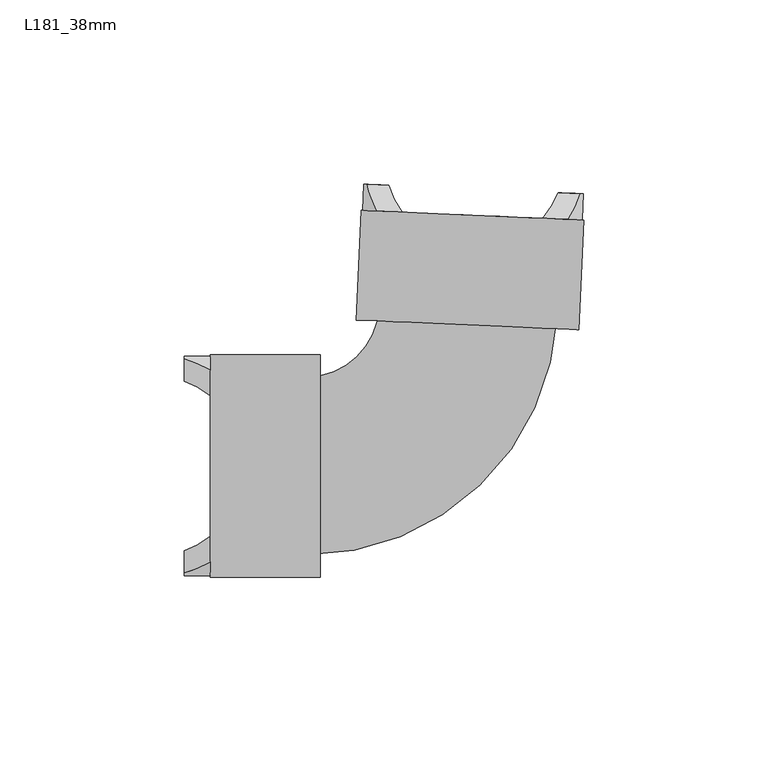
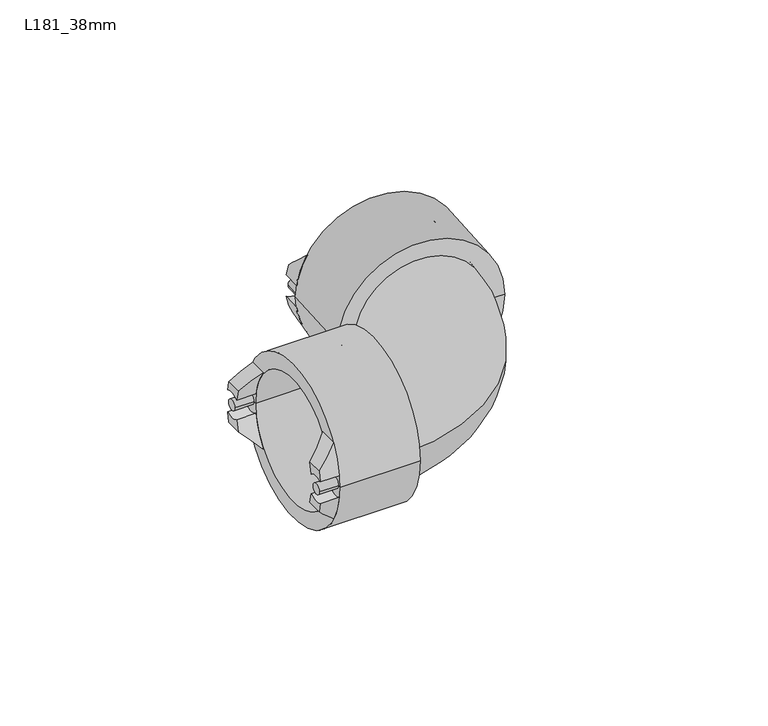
"""IFC4 building model written with IfcOpenShell, lengths in millimetres: pipe fitting geometry, Durapipe_PipeFitting_VulcatheneEnfusion_DoubleSocketShortSweepBend_L18 : L181_38mm."""

import ifcopenshell
import ifcopenshell.guid

model = None  # the IFC model being written
_history = None  # IfcOwnerHistory: only IFC2X3 demands one
_inside = {}  # id of a spatial element -> (the spatial element, [elements in it])
_under = {}  # id of a project, library or spatial element -> (it, [spatial elements below it])
_declared = {}  # id of a project -> (the project, [libraries it declares])
_typed = {}  # id of a type object -> (the type object, [elements of that type])
_made_of = {}  # id of a material, layer set ... -> (it, [elements and type objects made of it])


def new_model(schema):
    """Start an empty IFC model of exactly this schema.

    Asked for "IFC4X3", IfcOpenShell would pick the latest addendum, in which some entities
    have other attributes; the version numbers below select the first issue.
    IFC2X3 requires an IfcOwnerHistory on every rooted entity: one is made here for all.
    """
    global model, _history
    if schema == "IFC4X3":
        model = ifcopenshell.file(schema_version=(4, 3, 0, 0))
    else:
        model = ifcopenshell.file(schema=schema)
    _inside.clear()
    _under.clear()
    _declared.clear()
    _typed.clear()
    _made_of.clear()
    _history = None
    if model.schema == "IFC2X3":
        org = make("IfcOrganization", Name="unknown")
        user = make(
            "IfcPersonAndOrganization",
            ThePerson=make("IfcPerson", FamilyName="unknown"),
            TheOrganization=org,
        )
        app = make(
            "IfcApplication",
            ApplicationDeveloper=org,
            Version="unknown",
            ApplicationFullName="unknown",
            ApplicationIdentifier="unknown",
        )
        _history = make(
            "IfcOwnerHistory",
            OwningUser=user,
            OwningApplication=app,
            ChangeAction="ADDED",
            CreationDate=0,
        )
    return model


def make(cls, **values):
    """One entity of the class cls with the attributes given. An attribute that is None is left unset."""
    return model.create_entity(
        cls, **{name: value for name, value in values.items() if value is not None}
    )


def rooted(cls, **values):
    """An entity with a GlobalId (a new one), such as an element, a storey or a relation."""
    return make(cls, GlobalId=ifcopenshell.guid.new(), OwnerHistory=_history, **values)


def si_unit(unit_type, name, prefix=None):
    """IfcSIUnit, for example si_unit("LENGTHUNIT", "METRE", prefix="MILLI")."""
    return make("IfcSIUnit", UnitType=unit_type, Prefix=prefix, Name=name)


def assignment(units):
    """IfcUnitAssignment: the units of a project."""
    return None if units is None else make("IfcUnitAssignment", Units=units)


def point(xyz):
    """IfcCartesianPoint."""
    return None if xyz is None else make("IfcCartesianPoint", Coordinates=xyz)


def direction(xyz):
    """IfcDirection."""
    return None if xyz is None else make("IfcDirection", DirectionRatios=xyz)


def frame(location, z_axis=None, x_axis=None):
    """IfcAxis2Placement3D, a coordinate frame: its origin and axes. An axis left out is left unset."""
    return make(
        "IfcAxis2Placement3D",
        Location=point(location),
        Axis=direction(z_axis),
        RefDirection=direction(x_axis),
    )


def frame_2d(location, x_axis=None):
    """IfcAxis2Placement2D, a coordinate frame in the plane: its origin and x axis."""
    return make(
        "IfcAxis2Placement2D", Location=point(location), RefDirection=direction(x_axis)
    )


def origin():
    """The frame at (0, 0, 0) with its axes left unset."""
    return frame((0.0, 0.0, 0.0))


def place(relative_to, where):
    """IfcLocalPlacement: puts the frame where relative to a parent placement (None: the world)."""
    return make(
        "IfcLocalPlacement", PlacementRelTo=relative_to, RelativePlacement=where
    )


def context(
    kind, dimensions, precision=None, world=None, true_north=None, identifier=None
):
    """IfcGeometricRepresentationContext, for example the 3D "Model" context."""
    return make(
        "IfcGeometricRepresentationContext",
        ContextIdentifier=identifier,
        ContextType=kind,
        CoordinateSpaceDimension=dimensions,
        Precision=precision,
        WorldCoordinateSystem=world,
        TrueNorth=true_north,
    )


def project(units=None, contexts=None):
    """IfcProject with its units and contexts."""
    return rooted(
        "IfcProject",
        Name="project",
        RepresentationContexts=contexts,
        UnitsInContext=assignment(units),
    )


def spatial(cls, under=None, at=None, **own):
    """A site, building, storey or space (cls), placed at a placement, below another one or the project."""
    s = rooted(cls, ObjectPlacement=at, **own)
    if under is not None:
        _under.setdefault(under.id(), (under, []))[1].append(s)
    return s


def polyline(points):
    """IfcPolyline through the points."""
    return make("IfcPolyline", Points=[point(p) for p in points])


def circle_curve(where, radius):
    """IfcCircle in the frame where."""
    return make("IfcCircle", Position=where, Radius=radius)


def ellipse_curve(where, semi_axis1, semi_axis2):
    """IfcEllipse in the frame where."""
    return make(
        "IfcEllipse", Position=where, SemiAxis1=semi_axis1, SemiAxis2=semi_axis2
    )


def trimmed(basis, trim1, trim2, sense, master):
    """IfcTrimmedCurve: the piece of a basis curve between two trims."""
    return make(
        "IfcTrimmedCurve",
        BasisCurve=basis,
        Trim1=trim1,
        Trim2=trim2,
        SenseAgreement=sense,
        MasterRepresentation=master,
    )


def segment(curve, same_sense, transition):
    """IfcCompositeCurveSegment."""
    return make(
        "IfcCompositeCurveSegment",
        Transition=transition,
        SameSense=same_sense,
        ParentCurve=curve,
    )


def composite_curve(segments, self_intersect=None):
    """IfcCompositeCurve: segments joined end to end."""
    return make("IfcCompositeCurve", Segments=segments, SelfIntersect=self_intersect)


def outline(outer, holes=None, kind="AREA"):
    """IfcArbitraryClosedProfileDef: a profile drawn as a closed curve; with holes, ...WithVoids."""
    if holes is None:
        return make("IfcArbitraryClosedProfileDef", ProfileType=kind, OuterCurve=outer)
    return make(
        "IfcArbitraryProfileDefWithVoids",
        ProfileType=kind,
        OuterCurve=outer,
        InnerCurves=holes,
    )


def extrude(swept, where, along, depth):
    """IfcExtrudedAreaSolid: the profile swept, set in the frame where, extruded along a direction by depth."""
    return make(
        "IfcExtrudedAreaSolid",
        SweptArea=swept,
        Position=where,
        ExtrudedDirection=direction(along),
        Depth=depth,
    )


def shape(context_of_items, identifier, shape_type, items):
    """IfcShapeRepresentation: the items that make up one representation, for example the "Body"."""
    return make(
        "IfcShapeRepresentation",
        ContextOfItems=context_of_items,
        RepresentationIdentifier=identifier,
        RepresentationType=shape_type,
        Items=items,
    )


def source(mapping_origin, context_of_items, identifier, shape_type, items):
    """IfcRepresentationMap: a shape defined once, which mapped items show again and again."""
    return make(
        "IfcRepresentationMap",
        MappingOrigin=mapping_origin,
        MappedRepresentation=shape(context_of_items, identifier, shape_type, items),
    )


def transform(
    local_origin,
    x_axis=None,
    y_axis=None,
    z_axis=None,
    scale=None,
    scale2=None,
    scale3=None,
    uniform=True,
):
    """IfcCartesianTransformationOperator3D, or its non-uniform kind. x_axis, y_axis, z_axis: its Axis1, 2, 3."""
    if uniform:
        return make(
            "IfcCartesianTransformationOperator3D",
            Axis1=direction(x_axis),
            Axis2=direction(y_axis),
            LocalOrigin=point(local_origin),
            Scale=scale,
            Axis3=direction(z_axis),
        )
    return make(
        "IfcCartesianTransformationOperator3DnonUniform",
        Axis1=direction(x_axis),
        Axis2=direction(y_axis),
        LocalOrigin=point(local_origin),
        Scale=scale,
        Axis3=direction(z_axis),
        Scale2=scale2,
        Scale3=scale3,
    )


def mapped(mapping_source, mapping_target):
    """IfcMappedItem: shows the shape of a source again, moved by a transform."""
    return make(
        "IfcMappedItem", MappingSource=mapping_source, MappingTarget=mapping_target
    )


def made_of(thing, what):
    """Note that an element or type object is made of a material, layer set ...; save() writes the relation."""
    if what is not None:
        _made_of.setdefault(what.id(), (what, []))[1].append(thing)
    return thing


def element(
    cls,
    number,
    at=None,
    inside=None,
    cuts=None,
    type_object=None,
    material=None,
    context=None,
    identifier="Body",
    shape_type=None,
    held_by="IfcProductDefinitionShape",
    body=None,
    shapes=None,
    **own,
):
    """One element of the class cls, such as IfcWall. Its Tag is "e" and its number.

    at: its placement. inside: the storey or other place that contains it. cuts: it is an
    opening in that element (IfcRelVoidsElement). A single representation is given by context,
    identifier, shape_type and body (its items); several are given by shapes. held_by: the class
    of the entity that holds the representations. save() writes the other relations.
    """
    e = rooted(cls, Tag="e%d" % number, ObjectPlacement=at, **own)
    if body is not None:
        shapes = [shape(context, identifier, shape_type, body)]
    if shapes is not None:
        e.Representation = make(held_by, Representations=shapes)
    if inside is not None:
        _inside.setdefault(inside.id(), (inside, []))[1].append(e)
    if cuts is not None:
        rooted(
            "IfcRelVoidsElement", RelatingBuildingElement=cuts, RelatedOpeningElement=e
        )
    if type_object is not None:
        _typed.setdefault(type_object.id(), (type_object, []))[1].append(e)
    return made_of(e, material)


def aggregate(whole, parts):
    """IfcRelAggregates: a whole, such as a stair, and the parts it consists of."""
    return rooted("IfcRelAggregates", RelatingObject=whole, RelatedObjects=parts)


def save(model, path):
    """Write the relations noted so far, then the file.

    IfcRelAggregates (storeys below a building ...), IfcRelContainedInSpatialStructure (elements
    in a storey), IfcRelDefinesByType, IfcRelAssociatesMaterial and IfcRelDeclares: one each for
    every whole, place, type object, material and project.
    """
    for whole, parts in _under.values():
        aggregate(whole, parts)
    for where, things in _inside.values():
        rooted(
            "IfcRelContainedInSpatialStructure",
            RelatedElements=things,
            RelatingStructure=where,
        )
    for kind, things in _typed.values():
        rooted("IfcRelDefinesByType", RelatedObjects=things, RelatingType=kind)
    for what, things in _made_of.values():
        rooted("IfcRelAssociatesMaterial", RelatedObjects=things, RelatingMaterial=what)
    for by, libraries in _declared.values():
        rooted("IfcRelDeclares", RelatingContext=by, RelatedDefinitions=libraries)
    model.write(path)


def plane_surface(at):
    """IfcPlane: the flat surface through the origin of the frame at, square to its z axis."""
    return make("IfcPlane", Position=at)


def cylinder_surface(at, radius):
    """IfcCylindricalSurface: all points at the distance radius from the z axis of the frame at."""
    return make("IfcCylindricalSurface", Position=at, Radius=radius)


def revolved_surface(curve, axis_point, axis_direction):
    """IfcSurfaceOfRevolution: the curve turned about the line through axis_point along axis_direction."""
    return make(
        "IfcSurfaceOfRevolution",
        SweptCurve=make("IfcArbitraryOpenProfileDef", ProfileType="CURVE", Curve=curve),
        AxisPosition=make("IfcAxis1Placement", Location=point(axis_point), Axis=direction(axis_direction)),
    )


def advanced_brep(points, edges, surfaces, faces):
    """IfcAdvancedBrep: a solid bounded by faces that lie on surfaces and meet in shared edges.

    An edge is (start, end): straight between two places in points (the first is 0);
    or (start, end, curve); or (start, end, curve, False) where it runs against its curve.
    A face is (place in surfaces, loops), or (place, loops, False) where it looks against
    its surface's normal. A loop lists edges by number (the first is 1), with a minus sign
    where the edge is run from its end to its start. The first loop is the outer one.
    """
    corners = [point(p) for p in points]
    vertices = [make("IfcVertexPoint", VertexGeometry=c) for c in corners]
    made = []
    for start, end, *more in edges:
        made.append(
            make(
                "IfcEdgeCurve",
                EdgeStart=vertices[start],
                EdgeEnd=vertices[end],
                EdgeGeometry=more[0] if more else make("IfcPolyline", Points=[corners[start], corners[end]]),
                SameSense=more[1] if len(more) > 1 else True,
            )
        )
    hull = []
    for where, loops, *sense in faces:
        bounds = []
        for j, loop in enumerate(loops):
            ring = [make("IfcOrientedEdge", EdgeElement=made[abs(k) - 1], Orientation=k > 0) for k in loop]
            bounds.append(
                make(
                    "IfcFaceOuterBound" if j == 0 else "IfcFaceBound",
                    Bound=make("IfcEdgeLoop", EdgeList=ring),
                    Orientation=True,
                )
            )
        hull.append(make("IfcAdvancedFace", Bounds=bounds, FaceSurface=surfaces[where], SameSense=sense[0] if sense else True))
    return make("IfcAdvancedBrep", Outer=make("IfcClosedShell", CfsFaces=hull))


def l181_38mm_b93e07b0(model_context):
    return source(origin(), model_context, "Body", "SolidModel", [
        advanced_brep(
        [(-20.6909257, 76.2001587, 3.8377351), (-26.4854054, 76.4531511, 4.2738489), (-25.7249767, 76.4199501, 7.94), (-19.6630694, 76.1552815, 7.94), (-23.0997551, 69.1985664, 15.0), (-26.795103, 69.3599087, 4.2738489), (-21.0006234, 69.1069163, 3.8377351), (-16.1280214, 68.8941739, 15.0)],
        [
            (0, 1, circle_curve(frame((-23.8928385, 76.3399572, 0.0), z_axis=(-0.043619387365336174, -0.9990482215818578, 0.0), x_axis=(0.9990482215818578, -0.043619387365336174, 0.0)), 5.0)),
            (1, 2, circle_curve(frame((3.2812731, 75.1535099, 0.0), z_axis=(0.043619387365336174, 0.9990482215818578, 0.0), x_axis=(0.9990482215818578, -0.043619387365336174, 0.0)), 30.1)),
            (2, 3),
            (3, 0, circle_curve(frame((3.2812731, 75.1535099, 0.0), z_axis=(-0.043619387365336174, -0.9990482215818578, 0.0), x_axis=(0.9990482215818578, -0.043619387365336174, 0.0)), 24.3)),
            (4, 5, circle_curve(frame((2.9715755, 68.0602675, 0.0), z_axis=(-0.043619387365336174, -0.9990482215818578, 0.0), x_axis=(0.9990482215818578, -0.043619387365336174, 0.0)), 30.1)),
            (5, 6, circle_curve(frame((-24.2025362, 69.2467148, 0.0), z_axis=(0.043619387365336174, 0.9990482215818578, 0.0), x_axis=(0.9990482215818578, -0.043619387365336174, 0.0)), 5.0)),
            (6, 7, circle_curve(frame((2.9715755, 68.0602675, 0.0), z_axis=(0.043619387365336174, 0.9990482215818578, 0.0), x_axis=(0.9990482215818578, -0.043619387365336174, 0.0)), 24.3)),
            (7, 4),
            (6, 0),
            (3, 7, ellipse_curve(frame((3.6295733, 83.1308957, 0.0), z_axis=(0.030756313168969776, 0.7044353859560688, 0.7091014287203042), x_axis=(-0.030930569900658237, -0.7084265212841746, 0.705106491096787)), 34.4628794, 24.3)),
            (4, 2, ellipse_curve(frame((3.6295733, 83.1308957, 0.0), z_axis=(-0.030756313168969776, -0.7044353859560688, -0.7091014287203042), x_axis=(0.030930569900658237, 0.7084265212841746, -0.705106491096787)), 42.6885873, 30.1)),
            (1, 5),
        ],
        [
            plane_surface(frame((-22.7900574, 76.2918087, 15.0), z_axis=(0.043619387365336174, 0.9990482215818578, 0.0), x_axis=(0.9990482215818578, -0.043619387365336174, 0.0))),
            plane_surface(frame((-23.0997551, 69.1985664, 15.0), z_axis=(-0.043619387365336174, -0.9990482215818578, 0.0), x_axis=(-0.9990482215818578, 0.043619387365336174, 0.0))),
            revolved_surface(polyline([(26.84048862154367, 57.65652681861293, 0.0), (28.972401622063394, 106.485362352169, 0.0)]), (2.9715755, 68.0602675, 0.0), (-0.043619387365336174, -0.9990482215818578, 0.0)),
            cylinder_surface(frame((2.9715755, 68.0602675, 0.0), z_axis=(0.043619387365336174, 0.9990482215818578, 0.0), x_axis=(0.9990482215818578, -0.043619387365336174, 0.0)), 30.1),
            revolved_surface(polyline([(-18.897597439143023, 76.1218602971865, 0.0), (-19.20729509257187, 69.02861785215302, 0.0)]), (-24.2025362, 69.2467148, 0.0), (0.043619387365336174, 0.9990482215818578, 0.0)),
            plane_surface(frame((33.0429269, 66.7473239, 15.0), z_axis=(0.030756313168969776, 0.7044353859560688, 0.7091014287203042), x_axis=(-0.9990482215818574, 0.04361938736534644, 0.0))),
        ],
        [
            (0, [[1, 2, 3, 4]]),
            (1, [[5, 6, 7, 8]]),
            (2, [[-7, 9, -4, 10]]),
            (3, [[-5, 11, -2, 12]]),
            (4, [[-1, -9, -6, -12]]),
            (5, [[-3, -11, -8, -10]]),
        ],
    ),
        advanced_brep(
        [(-26.4854054, 76.4531511, -4.2738489), (-20.6909257, 76.2001587, -3.8377351), (-19.6630694, 76.1552815, -7.94), (-25.7249767, 76.4199501, -7.94), (-26.795103, 69.3599087, -4.2738489), (-23.0997551, 69.1985664, -15.0), (-16.1280214, 68.8941739, -15.0), (-21.0006234, 69.1069163, -3.8377351)],
        [
            (0, 1, circle_curve(frame((-23.8928385, 76.3399572, 0.0), z_axis=(-0.043619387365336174, -0.9990482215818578, 0.0), x_axis=(0.9990482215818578, -0.043619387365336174, 0.0)), 5.0)),
            (1, 2, circle_curve(frame((3.2812731, 75.1535099, 0.0), z_axis=(-0.043619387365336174, -0.9990482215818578, 0.0), x_axis=(0.9990482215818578, -0.043619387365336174, 0.0)), 24.3)),
            (2, 3),
            (3, 0, circle_curve(frame((3.2812731, 75.1535099, 0.0), z_axis=(0.043619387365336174, 0.9990482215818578, 0.0), x_axis=(0.9990482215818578, -0.043619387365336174, 0.0)), 30.1)),
            (4, 5, circle_curve(frame((2.9715755, 68.0602675, 0.0), z_axis=(-0.043619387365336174, -0.9990482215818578, 0.0), x_axis=(0.9990482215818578, -0.043619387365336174, 0.0)), 30.1)),
            (5, 6),
            (6, 7, circle_curve(frame((2.9715755, 68.0602675, 0.0), z_axis=(0.043619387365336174, 0.9990482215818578, 0.0), x_axis=(0.9990482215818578, -0.043619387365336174, 0.0)), 24.3)),
            (7, 4, circle_curve(frame((-24.2025362, 69.2467148, 0.0), z_axis=(0.043619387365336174, 0.9990482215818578, 0.0), x_axis=(0.9990482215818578, -0.043619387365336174, 0.0)), 5.0)),
            (6, 2, ellipse_curve(frame((3.6295733, 83.1308957, 0.0), z_axis=(0.03075631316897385, 0.7044353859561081, -0.7091014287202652), x_axis=(-0.03093056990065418, -0.7084265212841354, -0.7051064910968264)), 34.4628794, 24.3)),
            (1, 7),
            (4, 0),
            (3, 5, ellipse_curve(frame((3.6295733, 83.1308957, 0.0), z_axis=(-0.03075631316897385, -0.7044353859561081, 0.7091014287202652), x_axis=(0.03093056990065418, 0.7084265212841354, 0.7051064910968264)), 42.6885873, 30.1)),
        ],
        [
            plane_surface(frame((-22.7900574, 76.2918087, 15.0), z_axis=(0.043619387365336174, 0.9990482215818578, 0.0), x_axis=(0.9990482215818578, -0.043619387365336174, 0.0))),
            plane_surface(frame((-23.0997551, 69.1985664, 15.0), z_axis=(-0.043619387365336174, -0.9990482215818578, 0.0), x_axis=(-0.9990482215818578, 0.043619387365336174, 0.0))),
            revolved_surface(polyline([(26.840488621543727, 57.65652681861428, 0.0), (28.972401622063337, 106.48536235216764, 0.0)]), (2.9715755, 68.0602675, 0.0), (-0.043619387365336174, -0.9990482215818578, 0.0)),
            cylinder_surface(frame((2.9715755, 68.0602675, 0.0), z_axis=(0.043619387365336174, 0.9990482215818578, 0.0), x_axis=(0.9990482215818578, -0.043619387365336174, 0.0)), 30.1),
            revolved_surface(polyline([(-18.897597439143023, 76.1218602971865, 0.0), (-19.20729509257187, 69.02861785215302, 0.0)]), (-24.2025362, 69.2467148, 0.0), (0.043619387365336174, 0.9990482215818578, 0.0)),
            plane_surface(frame((33.3526246, 73.8405663, -7.94), z_axis=(0.03075631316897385, 0.7044353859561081, -0.7091014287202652), x_axis=(-0.9990482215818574, 0.04361938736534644, 0.0))),
        ],
        [
            (0, [[1, 2, 3, 4]]),
            (1, [[5, 6, 7, 8]]),
            (2, [[-7, 9, -2, 10]]),
            (3, [[-5, 11, -4, 12]]),
            (4, [[-1, -11, -8, -10]]),
            (5, [[-3, -9, -6, -12]]),
        ],
    ),
        advanced_brep(
        [(33.0479516, 73.8538686, 4.2738489), (27.2534719, 74.106861, 3.8377351), (26.2256156, 74.1517382, 7.94), (32.2875229, 73.8870696, 7.94), (32.7382539, 66.7606262, 4.2738489), (29.042906, 66.9219686, 15.0), (22.0711723, 67.2263611, 15.0), (26.9437743, 67.0136187, 3.8377351)],
        [
            (0, 1, circle_curve(frame((30.4553847, 73.9670625, 0.0), z_axis=(-0.043619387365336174, -0.9990482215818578, 0.0), x_axis=(0.9990482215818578, -0.043619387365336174, 0.0)), 5.0)),
            (1, 2, circle_curve(frame((3.2812731, 75.1535099, 0.0), z_axis=(-0.043619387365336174, -0.9990482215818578, 0.0), x_axis=(0.9990482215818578, -0.043619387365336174, 0.0)), 24.3)),
            (2, 3),
            (3, 0, circle_curve(frame((3.2812731, 75.1535099, 0.0), z_axis=(0.043619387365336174, 0.9990482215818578, 0.0), x_axis=(0.9990482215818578, -0.043619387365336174, 0.0)), 30.1)),
            (4, 5, circle_curve(frame((2.9715755, 68.0602675, 0.0), z_axis=(-0.043619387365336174, -0.9990482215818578, 0.0), x_axis=(0.9990482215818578, -0.043619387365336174, 0.0)), 30.1)),
            (5, 6),
            (6, 7, circle_curve(frame((2.9715755, 68.0602675, 0.0), z_axis=(0.043619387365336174, 0.9990482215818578, 0.0), x_axis=(0.9990482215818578, -0.043619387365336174, 0.0)), 24.3)),
            (7, 4, circle_curve(frame((30.1456871, 66.8738201, 0.0), z_axis=(0.043619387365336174, 0.9990482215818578, 0.0), x_axis=(0.9990482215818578, -0.043619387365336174, 0.0)), 5.0)),
            (6, 2, ellipse_curve(frame((3.6295733, 83.1308957, 0.0), z_axis=(0.030756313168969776, 0.7044353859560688, 0.7091014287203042), x_axis=(-0.030930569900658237, -0.7084265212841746, 0.705106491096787)), 34.4628794, 24.3)),
            (1, 7),
            (4, 0),
            (3, 5, ellipse_curve(frame((3.6295733, 83.1308957, 0.0), z_axis=(-0.030756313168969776, -0.7044353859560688, -0.7091014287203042), x_axis=(0.030930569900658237, 0.7084265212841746, -0.705106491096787)), 42.6885873, 30.1)),
        ],
        [
            plane_surface(frame((-22.7900574, 76.2918087, 15.0), z_axis=(0.043619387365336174, 0.9990482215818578, 0.0), x_axis=(0.9990482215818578, -0.043619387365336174, 0.0))),
            plane_surface(frame((-23.0997551, 69.1985664, 15.0), z_axis=(-0.043619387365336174, -0.9990482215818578, 0.0), x_axis=(-0.9990482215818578, 0.043619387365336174, 0.0))),
            revolved_surface(polyline([(26.84048862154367, 57.65652681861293, 0.0), (28.972401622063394, 106.485362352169, 0.0)]), (2.9715755, 68.0602675, 0.0), (-0.043619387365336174, -0.9990482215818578, 0.0)),
            cylinder_surface(frame((2.9715755, 68.0602675, 0.0), z_axis=(0.043619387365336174, 0.9990482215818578, 0.0), x_axis=(0.9990482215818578, -0.043619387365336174, 0.0)), 30.1),
            revolved_surface(polyline([(35.45062585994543, 73.74896557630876, 0.0), (35.14092820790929, 66.65572316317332, 0.0)]), (30.1456871, 66.8738201, 0.0), (0.043619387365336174, 0.9990482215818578, 0.0)),
            plane_surface(frame((33.0429269, 66.7473239, 15.0), z_axis=(0.030756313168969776, 0.7044353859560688, 0.7091014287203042), x_axis=(-0.9990482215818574, 0.04361938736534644, 0.0))),
        ],
        [
            (0, [[1, 2, 3, 4]]),
            (1, [[5, 6, 7, 8]]),
            (2, [[-7, 9, -2, 10]]),
            (3, [[-5, 11, -4, 12]]),
            (4, [[-1, -11, -8, -10]]),
            (5, [[-3, -9, -6, -12]]),
        ],
    ),
        advanced_brep(
        [(27.2534719, 74.106861, -3.8377351), (33.0479516, 73.8538686, -4.2738489), (32.2875229, 73.8870696, -7.94), (26.2256156, 74.1517382, -7.94), (29.042906, 66.9219686, -15.0), (32.7382539, 66.7606262, -4.2738489), (26.9437743, 67.0136187, -3.8377351), (22.0711723, 67.2263611, -15.0)],
        [
            (0, 1, circle_curve(frame((30.4553847, 73.9670625, 0.0), z_axis=(-0.043619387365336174, -0.9990482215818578, 0.0), x_axis=(0.9990482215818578, -0.043619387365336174, 0.0)), 5.0)),
            (1, 2, circle_curve(frame((3.2812731, 75.1535099, 0.0), z_axis=(0.043619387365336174, 0.9990482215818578, 0.0), x_axis=(0.9990482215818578, -0.043619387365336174, 0.0)), 30.1)),
            (2, 3),
            (3, 0, circle_curve(frame((3.2812731, 75.1535099, 0.0), z_axis=(-0.043619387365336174, -0.9990482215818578, 0.0), x_axis=(0.9990482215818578, -0.043619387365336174, 0.0)), 24.3)),
            (4, 5, circle_curve(frame((2.9715755, 68.0602675, 0.0), z_axis=(-0.043619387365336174, -0.9990482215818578, 0.0), x_axis=(0.9990482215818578, -0.043619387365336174, 0.0)), 30.1)),
            (5, 6, circle_curve(frame((30.1456871, 66.8738201, 0.0), z_axis=(0.043619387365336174, 0.9990482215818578, 0.0), x_axis=(0.9990482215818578, -0.043619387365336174, 0.0)), 5.0)),
            (6, 7, circle_curve(frame((2.9715755, 68.0602675, 0.0), z_axis=(0.043619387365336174, 0.9990482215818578, 0.0), x_axis=(0.9990482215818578, -0.043619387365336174, 0.0)), 24.3)),
            (7, 4),
            (6, 0),
            (3, 7, ellipse_curve(frame((3.6295733, 83.1308957, 0.0), z_axis=(0.03075631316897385, 0.7044353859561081, -0.7091014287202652), x_axis=(-0.03093056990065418, -0.7084265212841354, -0.7051064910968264)), 34.4628794, 24.3)),
            (4, 2, ellipse_curve(frame((3.6295733, 83.1308957, 0.0), z_axis=(-0.03075631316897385, -0.7044353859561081, 0.7091014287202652), x_axis=(0.03093056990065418, 0.7084265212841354, 0.7051064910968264)), 42.6885873, 30.1)),
            (1, 5),
        ],
        [
            plane_surface(frame((-22.7900574, 76.2918087, 15.0), z_axis=(0.043619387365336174, 0.9990482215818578, 0.0), x_axis=(0.9990482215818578, -0.043619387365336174, 0.0))),
            plane_surface(frame((-23.0997551, 69.1985664, 15.0), z_axis=(-0.043619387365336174, -0.9990482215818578, 0.0), x_axis=(-0.9990482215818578, 0.043619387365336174, 0.0))),
            revolved_surface(polyline([(26.840488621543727, 57.65652681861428, 0.0), (28.972401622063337, 106.48536235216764, 0.0)]), (2.9715755, 68.0602675, 0.0), (-0.043619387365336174, -0.9990482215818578, 0.0)),
            cylinder_surface(frame((2.9715755, 68.0602675, 0.0), z_axis=(0.043619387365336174, 0.9990482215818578, 0.0), x_axis=(0.9990482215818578, -0.043619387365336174, 0.0)), 30.1),
            revolved_surface(polyline([(35.45062585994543, 73.74896557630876, 0.0), (35.14092820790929, 66.65572316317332, 0.0)]), (30.1456871, 66.8738201, 0.0), (0.043619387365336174, 0.9990482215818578, 0.0)),
            plane_surface(frame((33.3526246, 73.8405663, -7.94), z_axis=(0.03075631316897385, 0.7044353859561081, -0.7091014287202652), x_axis=(-0.9990482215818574, 0.04361938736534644, 0.0))),
        ],
        [
            (0, [[1, 2, 3, 4]]),
            (1, [[5, 6, 7, 8]]),
            (2, [[-7, 9, -4, 10]]),
            (3, [[-5, 11, -2, 12]]),
            (4, [[-1, -9, -6, -12]]),
            (5, [[-3, -11, -8, -10]]),
        ],
    ),
        extrude(outline(composite_curve([segment(trimmed(circle_curve(frame_2d((0.0, -2.0000001)), 2.0), [point((0.0, -4.0))], [point((0.0, 0.0))], False, "CARTESIAN"), True, "CONTINUOUS"), segment(trimmed(circle_curve(frame_2d((0.0, -2.0000001)), 2.0), [point((0.0, 0.0))], [point((0.0, -4.0))], False, "CARTESIAN"), True, "CONTINUOUS")], self_intersect=False)), frame((-22.2044397, 69.159476, 0.0), z_axis=(0.043619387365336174, 0.9990482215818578, 0.0), x_axis=(0.0, 0.0, 1.0)), (0.0, 0.0, 1.0), 7.1),
        extrude(outline(composite_curve([segment(trimmed(circle_curve(frame_2d((0.0, 52.4)), 2.0), [point((0.0, 50.3999999))], [point((0.0, 54.3999999))], False, "CARTESIAN"), True, "CONTINUOUS"), segment(trimmed(circle_curve(frame_2d((0.0, 52.4)), 2.0), [point((0.0, 54.3999999))], [point((0.0, 50.3999999))], False, "CARTESIAN"), True, "CONTINUOUS")], self_intersect=False)), frame((-22.2044397, 69.159476, 0.0), z_axis=(0.043619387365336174, 0.9990482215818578, 0.0), x_axis=(0.0, 0.0, 1.0)), (0.0, 0.0, 1.0), 7.1),
        advanced_brep(
        [(-18.3476646, 42.8662205, 0.0), (22.0138835, 41.1039973, 0.0), (25.960124, 40.9317007, 0.0), (-22.2939051, 43.0385171, 0.0), (-18.5090564, 39.1697421, 0.0), (21.8524918, 37.4075189, 0.0), (-28.549491, 39.6081169, 0.0), (31.8929264, 36.969144, 0.0), (-27.2496333, 69.3797539, 0.0), (33.1927842, 66.740781, 0.0), (-21.1554391, 69.1136757, 0.0), (27.09859, 67.0068593, 0.0)],
        [
            (0, 1, circle_curve(frame((1.8331094, 41.9851089, 0.0), z_axis=(-0.043619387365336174, -0.9990482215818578, 0.0), x_axis=(0.9990482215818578, -0.043619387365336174, 0.0)), 20.2)),
            (1, 2),
            (2, 3, circle_curve(frame((1.8331094, 41.9851089, 0.0), z_axis=(0.043619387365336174, 0.9990482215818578, 0.0), x_axis=(0.9990482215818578, -0.043619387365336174, 0.0)), 24.15)),
            (3, 0),
            (1, 0, circle_curve(frame((1.8331094, 41.9851089, 0.0), z_axis=(-0.043619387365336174, -0.9990482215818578, 0.0), x_axis=(0.9990482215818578, -0.043619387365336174, 0.0)), 20.2)),
            (3, 2, circle_curve(frame((1.8331094, 41.9851089, 0.0), z_axis=(0.043619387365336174, 0.9990482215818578, 0.0), x_axis=(0.9990482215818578, -0.043619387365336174, 0.0)), 24.15)),
            (4, 5, circle_curve(frame((1.6717177, 38.2886305, 0.0), z_axis=(-0.043619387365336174, -0.9990482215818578, 0.0), x_axis=(0.9990482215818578, -0.043619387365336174, 0.0)), 20.2)),
            (5, 1),
            (0, 4),
            (5, 4, circle_curve(frame((1.6717177, 38.2886305, 0.0), z_axis=(-0.043619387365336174, -0.9990482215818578, 0.0), x_axis=(0.9990482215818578, -0.043619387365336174, 0.0)), 20.2)),
            (6, 7, circle_curve(frame((1.6717177, 38.2886305, 0.0), z_axis=(-0.043619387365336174, -0.9990482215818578, 0.0), x_axis=(0.9990482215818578, -0.043619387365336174, 0.0)), 30.25)),
            (7, 5),
            (4, 6),
            (7, 6, circle_curve(frame((1.6717177, 38.2886305, 0.0), z_axis=(-0.043619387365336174, -0.9990482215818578, 0.0), x_axis=(0.9990482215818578, -0.043619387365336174, 0.0)), 30.25)),
            (8, 9, circle_curve(frame((2.9715755, 68.0602675, 0.0), z_axis=(-0.043619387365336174, -0.9990482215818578, 0.0), x_axis=(0.9990482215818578, -0.043619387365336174, 0.0)), 30.25)),
            (9, 7),
            (6, 8),
            (9, 8, circle_curve(frame((2.9715755, 68.0602675, 0.0), z_axis=(-0.043619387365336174, -0.9990482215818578, 0.0), x_axis=(0.9990482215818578, -0.043619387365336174, 0.0)), 30.25)),
            (10, 11, circle_curve(frame((2.9715755, 68.0602675, 0.0), z_axis=(-0.043619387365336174, -0.9990482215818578, 0.0), x_axis=(0.9990482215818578, -0.043619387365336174, 0.0)), 24.15)),
            (11, 9),
            (8, 10),
            (11, 10, circle_curve(frame((2.9715755, 68.0602675, 0.0), z_axis=(-0.043619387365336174, -0.9990482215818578, 0.0), x_axis=(0.9990482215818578, -0.043619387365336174, 0.0)), 24.15)),
            (2, 11),
            (10, 3),
        ],
        [
            plane_surface(frame((1.8331094, 41.9851089, 0.0), z_axis=(0.043619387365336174, 0.9990482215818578, 0.0), x_axis=(0.9990482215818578, -0.043619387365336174, 0.0))),
            revolved_surface(polyline([(22.01388355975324, 41.10399729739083, 0.0), (21.852491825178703, 37.407518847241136, 0.0)]), (112.6299574, 2579.6501371, 0.0), (0.043619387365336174, 0.9990482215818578, 0.0)),
            plane_surface(frame((1.6717177, 38.2886305, 0.0), z_axis=(-0.043619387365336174, -0.9990482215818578, 0.0), x_axis=(0.9990482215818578, -0.043619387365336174, 0.0))),
            cylinder_surface(frame((112.6299574, 2579.6501371, 0.0), z_axis=(0.043619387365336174, 0.9990482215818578, 0.0), x_axis=(0.9990482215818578, -0.043619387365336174, 0.0)), 30.25),
            plane_surface(frame((2.9715755, 68.0602675, 0.0), z_axis=(0.043619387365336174, 0.9990482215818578, 0.0), x_axis=(0.9990482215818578, -0.043619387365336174, 0.0))),
            revolved_surface(polyline([(27.09859004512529, 67.00685929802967, 0.0), (25.960124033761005, 40.931700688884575, 0.0)]), (112.6299574, 2579.6501371, 0.0), (0.043619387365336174, 0.9990482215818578, 0.0)),
        ],
        [
            (0, [[1, 2, 3, 4]]),
            (0, [[5, -4, 6, -2]]),
            (1, [[7, 8, -1, 9]]),
            (1, [[10, -9, -5, -8]]),
            (2, [[11, 12, -7, 13]]),
            (2, [[14, -13, -10, -12]]),
            (3, [[15, 16, -11, 17]]),
            (3, [[18, -17, -14, -16]]),
            (4, [[19, 20, -15, 21]]),
            (4, [[22, -21, -18, -20]]),
            (5, [[-3, 23, -19, 24]]),
            (5, [[-6, -24, -22, -23]]),
        ],
    ),
        advanced_brep(
        [(-75.2251075, 23.9950368, -3.8377351), (-75.2251075, 29.7950368, -4.2738489), (-75.2251075, 29.0338837, -7.94), (-75.2251075, 22.9662013, -7.94), (-68.1251075, 26.0961683, -15.0), (-68.1251075, 29.7950368, -4.2738489), (-68.1251075, 23.9950368, -3.8377351), (-68.1251075, 19.1177928, -15.0)],
        [
            (0, 1, circle_curve(frame((-75.2251075, 27.2, 0.0), z_axis=(1.0, 0.0, 0.0), x_axis=(0.0, -1.0, 0.0)), 5.0)),
            (1, 2, circle_curve(frame((-75.2251075, 0.0, 0.0), z_axis=(-1.0, 0.0, 0.0), x_axis=(0.0, -1.0, 0.0)), 30.1)),
            (2, 3),
            (3, 0, circle_curve(frame((-75.2251075, 0.0, 0.0), z_axis=(1.0, 0.0, 0.0), x_axis=(0.0, -1.0, 0.0)), 24.3)),
            (4, 5, circle_curve(frame((-68.1251075, 0.0, 0.0), z_axis=(1.0, 0.0, 0.0), x_axis=(0.0, -1.0, 0.0)), 30.1)),
            (5, 6, circle_curve(frame((-68.1251075, 27.2, 0.0), z_axis=(-1.0, 0.0, 0.0), x_axis=(0.0, -1.0, 0.0)), 5.0)),
            (6, 7, circle_curve(frame((-68.1251075, 0.0, 0.0), z_axis=(-1.0, 0.0, 0.0), x_axis=(0.0, -1.0, 0.0)), 24.3)),
            (7, 4),
            (6, 0),
            (3, 7, ellipse_curve(frame((-83.2100933, 0.0, 0.0), z_axis=(-0.705106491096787, 0.0, -0.7091014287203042), x_axis=(0.7091014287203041, 0.0, -0.705106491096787)), 34.4628794, 24.3)),
            (4, 2, ellipse_curve(frame((-83.2100933, 0.0, 0.0), z_axis=(0.705106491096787, 0.0, 0.7091014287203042), x_axis=(-0.7091014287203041, 0.0, 0.705106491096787)), 42.6885873, 30.1)),
            (1, 5),
        ],
        [
            plane_surface(frame((-75.2251075, 26.0961683, -15.0), z_axis=(-1.0, 0.0, 0.0), x_axis=(0.0, -1.0, 0.0))),
            plane_surface(frame((-68.1251075, 26.0961683, -15.0), z_axis=(1.0, 0.0, 0.0), x_axis=(0.0, 1.0, 0.0))),
            revolved_surface(polyline([(-58.77241627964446, -24.3, 0.0), (-107.64777032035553, -24.3, 0.0)]), (-68.1251075, 0.0, 0.0), (1.0, 0.0, 0.0)),
            cylinder_surface(frame((-68.1251075, 0.0, 0.0), z_axis=(-1.0, 0.0, 0.0), x_axis=(0.0, -1.0, 0.0)), 30.1),
            revolved_surface(polyline([(-75.2251075, 22.2, 0.0), (-68.1251075, 22.2, 0.0)]), (-68.1251075, 27.2, 0.0), (-1.0, 0.0, 0.0)),
            plane_surface(frame((-68.1251075, -30.1, -15.0), z_axis=(-0.705106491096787, 0.0, -0.7091014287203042), x_axis=(0.0, 1.0, 0.0))),
        ],
        [
            (0, [[1, 2, 3, 4]]),
            (1, [[5, 6, 7, 8]]),
            (2, [[-7, 9, -4, 10]]),
            (3, [[-5, 11, -2, 12]]),
            (4, [[-1, -9, -6, -12]]),
            (5, [[-3, -11, -8, -10]]),
        ],
    ),
        advanced_brep(
        [(-75.2251075, 29.7950368, 4.2738489), (-75.2251075, 23.9950368, 3.8377351), (-75.2251075, 22.9662013, 7.94), (-75.2251075, 29.0338837, 7.94), (-68.1251075, 29.7950368, 4.2738489), (-68.1251075, 26.0961683, 15.0), (-68.1251075, 19.1177928, 15.0), (-68.1251075, 23.9950368, 3.8377351)],
        [
            (0, 1, circle_curve(frame((-75.2251075, 27.2, 0.0), z_axis=(1.0, 0.0, 0.0), x_axis=(0.0, -1.0, 0.0)), 5.0)),
            (1, 2, circle_curve(frame((-75.2251075, 0.0, 0.0), z_axis=(1.0, 0.0, 0.0), x_axis=(0.0, -1.0, 0.0)), 24.3)),
            (2, 3),
            (3, 0, circle_curve(frame((-75.2251075, 0.0, 0.0), z_axis=(-1.0, 0.0, 0.0), x_axis=(0.0, -1.0, 0.0)), 30.1)),
            (4, 5, circle_curve(frame((-68.1251075, 0.0, 0.0), z_axis=(1.0, 0.0, 0.0), x_axis=(0.0, -1.0, 0.0)), 30.1)),
            (5, 6),
            (6, 7, circle_curve(frame((-68.1251075, 0.0, 0.0), z_axis=(-1.0, 0.0, 0.0), x_axis=(0.0, -1.0, 0.0)), 24.3)),
            (7, 4, circle_curve(frame((-68.1251075, 27.2, 0.0), z_axis=(-1.0, 0.0, 0.0), x_axis=(0.0, -1.0, 0.0)), 5.0)),
            (6, 2, ellipse_curve(frame((-83.2100933, 0.0, 0.0), z_axis=(-0.7051064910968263, 0.0, 0.7091014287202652), x_axis=(0.7091014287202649, 0.0, 0.7051064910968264)), 34.4628794, 24.3)),
            (1, 7),
            (4, 0),
            (3, 5, ellipse_curve(frame((-83.2100933, 0.0, 0.0), z_axis=(0.7051064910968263, 0.0, -0.7091014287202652), x_axis=(-0.7091014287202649, 0.0, -0.7051064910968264)), 42.6885873, 30.1)),
        ],
        [
            plane_surface(frame((-75.2251075, 26.0961683, -15.0), z_axis=(-1.0, 0.0, 0.0), x_axis=(0.0, -1.0, 0.0))),
            plane_surface(frame((-68.1251075, 26.0961683, -15.0), z_axis=(1.0, 0.0, 0.0), x_axis=(0.0, 1.0, 0.0))),
            revolved_surface(polyline([(-58.77241627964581, -24.3, 0.0), (-107.64777032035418, -24.3, 0.0)]), (-68.1251075, 0.0, 0.0), (1.0, 0.0, 0.0)),
            cylinder_surface(frame((-68.1251075, 0.0, 0.0), z_axis=(-1.0, 0.0, 0.0), x_axis=(0.0, -1.0, 0.0)), 30.1),
            revolved_surface(polyline([(-75.2251075, 22.2, 0.0), (-68.1251075, 22.2, 0.0)]), (-68.1251075, 27.2, 0.0), (-1.0, 0.0, 0.0)),
            plane_surface(frame((-75.2251075, -30.1, 7.94), z_axis=(-0.7051064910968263, 0.0, 0.7091014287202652), x_axis=(0.0, 1.0, 0.0))),
        ],
        [
            (0, [[1, 2, 3, 4]]),
            (1, [[5, 6, 7, 8]]),
            (2, [[-7, 9, -2, 10]]),
            (3, [[-5, 11, -4, 12]]),
            (4, [[-1, -11, -8, -10]]),
            (5, [[-3, -9, -6, -12]]),
        ],
    ),
        advanced_brep(
        [(-75.2251075, -29.7950368, -4.2738489), (-75.2251075, -23.9950368, -3.8377351), (-75.2251075, -22.9662013, -7.94), (-75.2251075, -29.0338837, -7.94), (-68.1251075, -29.7950368, -4.2738489), (-68.1251075, -26.0961683, -15.0), (-68.1251075, -19.1177928, -15.0), (-68.1251075, -23.9950368, -3.8377351)],
        [
            (0, 1, circle_curve(frame((-75.2251075, -27.2, 0.0), z_axis=(1.0, 0.0, 0.0), x_axis=(0.0, -1.0, 0.0)), 5.0)),
            (1, 2, circle_curve(frame((-75.2251075, 0.0, 0.0), z_axis=(1.0, 0.0, 0.0), x_axis=(0.0, -1.0, 0.0)), 24.3)),
            (2, 3),
            (3, 0, circle_curve(frame((-75.2251075, 0.0, 0.0), z_axis=(-1.0, 0.0, 0.0), x_axis=(0.0, -1.0, 0.0)), 30.1)),
            (4, 5, circle_curve(frame((-68.1251075, 0.0, 0.0), z_axis=(1.0, 0.0, 0.0), x_axis=(0.0, -1.0, 0.0)), 30.1)),
            (5, 6),
            (6, 7, circle_curve(frame((-68.1251075, 0.0, 0.0), z_axis=(-1.0, 0.0, 0.0), x_axis=(0.0, -1.0, 0.0)), 24.3)),
            (7, 4, circle_curve(frame((-68.1251075, -27.2, 0.0), z_axis=(-1.0, 0.0, 0.0), x_axis=(0.0, -1.0, 0.0)), 5.0)),
            (6, 2, ellipse_curve(frame((-83.2100933, 0.0, 0.0), z_axis=(-0.705106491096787, 0.0, -0.7091014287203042), x_axis=(0.7091014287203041, 0.0, -0.705106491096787)), 34.4628794, 24.3)),
            (1, 7),
            (4, 0),
            (3, 5, ellipse_curve(frame((-83.2100933, 0.0, 0.0), z_axis=(0.705106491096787, 0.0, 0.7091014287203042), x_axis=(-0.7091014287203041, 0.0, 0.705106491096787)), 42.6885873, 30.1)),
        ],
        [
            plane_surface(frame((-75.2251075, 26.0961683, -15.0), z_axis=(-1.0, 0.0, 0.0), x_axis=(0.0, -1.0, 0.0))),
            plane_surface(frame((-68.1251075, 26.0961683, -15.0), z_axis=(1.0, 0.0, 0.0), x_axis=(0.0, 1.0, 0.0))),
            revolved_surface(polyline([(-58.77241627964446, -24.3, 0.0), (-107.64777032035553, -24.3, 0.0)]), (-68.1251075, 0.0, 0.0), (1.0, 0.0, 0.0)),
            cylinder_surface(frame((-68.1251075, 0.0, 0.0), z_axis=(-1.0, 0.0, 0.0), x_axis=(0.0, -1.0, 0.0)), 30.1),
            revolved_surface(polyline([(-75.2251075, -32.2, 0.0), (-68.1251075, -32.2, 0.0)]), (-68.1251075, -27.2, 0.0), (-1.0, 0.0, 0.0)),
            plane_surface(frame((-68.1251075, -30.1, -15.0), z_axis=(-0.705106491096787, 0.0, -0.7091014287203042), x_axis=(0.0, 1.0, 0.0))),
        ],
        [
            (0, [[1, 2, 3, 4]]),
            (1, [[5, 6, 7, 8]]),
            (2, [[-7, 9, -2, 10]]),
            (3, [[-5, 11, -4, 12]]),
            (4, [[-1, -11, -8, -10]]),
            (5, [[-3, -9, -6, -12]]),
        ],
    ),
        advanced_brep(
        [(-75.2251075, -23.9950368, 3.8377351), (-75.2251075, -29.7950368, 4.2738489), (-75.2251075, -29.0338837, 7.94), (-75.2251075, -22.9662013, 7.94), (-68.1251075, -26.0961683, 15.0), (-68.1251075, -29.7950368, 4.2738489), (-68.1251075, -23.9950368, 3.8377351), (-68.1251075, -19.1177928, 15.0)],
        [
            (0, 1, circle_curve(frame((-75.2251075, -27.2, 0.0), z_axis=(1.0, 0.0, 0.0), x_axis=(0.0, -1.0, 0.0)), 5.0)),
            (1, 2, circle_curve(frame((-75.2251075, 0.0, 0.0), z_axis=(-1.0, 0.0, 0.0), x_axis=(0.0, -1.0, 0.0)), 30.1)),
            (2, 3),
            (3, 0, circle_curve(frame((-75.2251075, 0.0, 0.0), z_axis=(1.0, 0.0, 0.0), x_axis=(0.0, -1.0, 0.0)), 24.3)),
            (4, 5, circle_curve(frame((-68.1251075, 0.0, 0.0), z_axis=(1.0, 0.0, 0.0), x_axis=(0.0, -1.0, 0.0)), 30.1)),
            (5, 6, circle_curve(frame((-68.1251075, -27.2, 0.0), z_axis=(-1.0, 0.0, 0.0), x_axis=(0.0, -1.0, 0.0)), 5.0)),
            (6, 7, circle_curve(frame((-68.1251075, 0.0, 0.0), z_axis=(-1.0, 0.0, 0.0), x_axis=(0.0, -1.0, 0.0)), 24.3)),
            (7, 4),
            (6, 0),
            (3, 7, ellipse_curve(frame((-83.2100933, 0.0, 0.0), z_axis=(-0.7051064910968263, 0.0, 0.7091014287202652), x_axis=(0.7091014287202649, 0.0, 0.7051064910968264)), 34.4628794, 24.3)),
            (4, 2, ellipse_curve(frame((-83.2100933, 0.0, 0.0), z_axis=(0.7051064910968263, 0.0, -0.7091014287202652), x_axis=(-0.7091014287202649, 0.0, -0.7051064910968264)), 42.6885873, 30.1)),
            (1, 5),
        ],
        [
            plane_surface(frame((-75.2251075, 26.0961683, -15.0), z_axis=(-1.0, 0.0, 0.0), x_axis=(0.0, -1.0, 0.0))),
            plane_surface(frame((-68.1251075, 26.0961683, -15.0), z_axis=(1.0, 0.0, 0.0), x_axis=(0.0, 1.0, 0.0))),
            revolved_surface(polyline([(-58.77241627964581, -24.3, 0.0), (-107.64777032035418, -24.3, 0.0)]), (-68.1251075, 0.0, 0.0), (1.0, 0.0, 0.0)),
            cylinder_surface(frame((-68.1251075, 0.0, 0.0), z_axis=(-1.0, 0.0, 0.0), x_axis=(0.0, -1.0, 0.0)), 30.1),
            revolved_surface(polyline([(-75.2251075, -32.2, 0.0), (-68.1251075, -32.2, 0.0)]), (-68.1251075, -27.2, 0.0), (-1.0, 0.0, 0.0)),
            plane_surface(frame((-75.2251075, -30.1, 7.94), z_axis=(-0.7051064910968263, 0.0, 0.7091014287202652), x_axis=(0.0, 1.0, 0.0))),
        ],
        [
            (0, [[1, 2, 3, 4]]),
            (1, [[5, 6, 7, 8]]),
            (2, [[-7, 9, -4, 10]]),
            (3, [[-5, 11, -2, 12]]),
            (4, [[-1, -9, -6, -12]]),
            (5, [[-3, -11, -8, -10]]),
        ],
    ),
        extrude(outline(composite_curve([segment(trimmed(circle_curve(frame_2d((27.2, 0.0)), 2.0), [point((29.2, 0.0))], [point((25.2, 0.0))], False, "CARTESIAN"), True, "CONTINUOUS"), segment(trimmed(circle_curve(frame_2d((27.2, 0.0)), 2.0), [point((25.2, 0.0))], [point((29.2, 0.0))], False, "CARTESIAN"), True, "CONTINUOUS")], self_intersect=False)), frame((-75.2251075, 0.0, 0.0), z_axis=(1.0, 0.0, 0.0), x_axis=(0.0, 1.0, 0.0)), (0.0, 0.0, 1.0), 7.1),
        extrude(outline(composite_curve([segment(trimmed(circle_curve(frame_2d((-27.2, 0.0)), 2.0), [point((-25.2, 0.0))], [point((-29.2, 0.0))], False, "CARTESIAN"), True, "CONTINUOUS"), segment(trimmed(circle_curve(frame_2d((-27.2, 0.0)), 2.0), [point((-29.2, 0.0))], [point((-25.2, 0.0))], False, "CARTESIAN"), True, "CONTINUOUS")], self_intersect=False)), frame((-75.2251075, 0.0, 0.0), z_axis=(1.0, 0.0, 0.0), x_axis=(0.0, 1.0, 0.0)), (0.0, 0.0, 1.0), 7.1),
        advanced_brep(
        [(-42.0251075, 20.2, 0.0), (-42.0251075, -20.2, 0.0), (-42.0251075, -24.15, 0.0), (-42.0251075, 24.15, 0.0), (-38.3251075, 20.2, 0.0), (-38.3251075, -20.2, 0.0), (-38.3251075, 30.25, 0.0), (-38.3251075, -30.25, 0.0), (-68.1251075, 30.25, 0.0), (-68.1251075, -30.25, 0.0), (-68.1251075, 24.15, 0.0), (-68.1251075, -24.15, 0.0)],
        [
            (0, 1, circle_curve(frame((-42.0251075, 0.0, 0.0), z_axis=(1.0, 0.0, 0.0), x_axis=(0.0, -1.0, 0.0)), 20.2)),
            (1, 2),
            (2, 3, circle_curve(frame((-42.0251075, 0.0, 0.0), z_axis=(-1.0, 0.0, 0.0), x_axis=(0.0, -1.0, 0.0)), 24.15)),
            (3, 0),
            (1, 0, circle_curve(frame((-42.0251075, 0.0, 0.0), z_axis=(1.0, 0.0, 0.0), x_axis=(0.0, -1.0, 0.0)), 20.2)),
            (3, 2, circle_curve(frame((-42.0251075, 0.0, 0.0), z_axis=(-1.0, 0.0, 0.0), x_axis=(0.0, -1.0, 0.0)), 24.15)),
            (4, 5, circle_curve(frame((-38.3251075, 0.0, 0.0), z_axis=(1.0, 0.0, 0.0), x_axis=(0.0, -1.0, 0.0)), 20.2)),
            (5, 1),
            (0, 4),
            (5, 4, circle_curve(frame((-38.3251075, 0.0, 0.0), z_axis=(1.0, 0.0, 0.0), x_axis=(0.0, -1.0, 0.0)), 20.2)),
            (6, 7, circle_curve(frame((-38.3251075, 0.0, 0.0), z_axis=(1.0, 0.0, 0.0), x_axis=(0.0, -1.0, 0.0)), 30.25)),
            (7, 5),
            (4, 6),
            (7, 6, circle_curve(frame((-38.3251075, 0.0, 0.0), z_axis=(1.0, 0.0, 0.0), x_axis=(0.0, -1.0, 0.0)), 30.25)),
            (8, 9, circle_curve(frame((-68.1251075, 0.0, 0.0), z_axis=(1.0, 0.0, 0.0), x_axis=(0.0, -1.0, 0.0)), 30.25)),
            (9, 7),
            (6, 8),
            (9, 8, circle_curve(frame((-68.1251075, 0.0, 0.0), z_axis=(1.0, 0.0, 0.0), x_axis=(0.0, -1.0, 0.0)), 30.25)),
            (10, 11, circle_curve(frame((-68.1251075, 0.0, 0.0), z_axis=(1.0, 0.0, 0.0), x_axis=(0.0, -1.0, 0.0)), 24.15)),
            (11, 9),
            (8, 10),
            (11, 10, circle_curve(frame((-68.1251075, 0.0, 0.0), z_axis=(1.0, 0.0, 0.0), x_axis=(0.0, -1.0, 0.0)), 24.15)),
            (2, 11),
            (10, 3),
        ],
        [
            plane_surface(frame((-42.0251075, 0.0, 0.0), z_axis=(-1.0, 0.0, 0.0), x_axis=(0.0, -1.0, 0.0))),
            revolved_surface(polyline([(-42.025107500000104, -20.2, 0.0), (-38.32510749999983, -20.2, 0.0)]), (-2582.1077315, 0.0, 0.0), (-1.0, 0.0, 0.0)),
            plane_surface(frame((-38.3251075, 0.0, 0.0), z_axis=(1.0, 0.0, 0.0), x_axis=(0.0, -1.0, 0.0))),
            cylinder_surface(frame((-2582.1077315, 0.0, 0.0), z_axis=(-1.0, 0.0, 0.0), x_axis=(0.0, -1.0, 0.0)), 30.25),
            plane_surface(frame((-68.1251075, 0.0, 0.0), z_axis=(-1.0, 0.0, 0.0), x_axis=(0.0, -1.0, 0.0))),
            revolved_surface(polyline([(-68.12510750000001, -24.15, 0.0), (-42.025107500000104, -24.15, 0.0)]), (-2582.1077315, 0.0, 0.0), (-1.0, 0.0, 0.0)),
        ],
        [
            (0, [[1, 2, 3, 4]]),
            (0, [[5, -4, 6, -2]]),
            (1, [[7, 8, -1, 9]]),
            (1, [[10, -9, -5, -8]]),
            (2, [[11, 12, -7, 13]]),
            (2, [[14, -13, -10, -12]]),
            (3, [[15, 16, -11, 17]]),
            (3, [[18, -17, -14, -16]]),
            (4, [[19, 20, -15, 21]]),
            (4, [[22, -21, -18, -20]]),
            (5, [[-3, 23, -19, 24]]),
            (5, [[-6, -24, -22, -23]]),
        ],
    ),
        advanced_brep(
        [(-42.0251075, -24.15, 0.0), (-42.0251075, 24.15, 0.0), (-42.0251075, -20.2, 0.0), (-42.0251075, 20.2, 0.0), (25.960124, 40.9317007, 0.0), (-22.2939051, 43.0385171, 0.0), (22.0138835, 41.1039973, 0.0), (-18.3476646, 42.8662205, 0.0)],
        [
            (0, 1, circle_curve(frame((-42.0251075, 0.0, 0.0), z_axis=(-1.0, 0.0, 0.0), x_axis=(0.0, 1.0, 0.0)), 24.15)),
            (1, 0, circle_curve(frame((-42.0251075, 0.0, 0.0), z_axis=(-1.0, 0.0, 0.0), x_axis=(0.0, 1.0, 0.0)), 24.15)),
            (2, 3, circle_curve(frame((-42.0251075, 0.0, 0.0), z_axis=(1.0, 0.0, 0.0), x_axis=(0.0, 1.0, 0.0)), 20.2)),
            (3, 2, circle_curve(frame((-42.0251075, 0.0, 0.0), z_axis=(1.0, 0.0, 0.0), x_axis=(0.0, 1.0, 0.0)), 20.2)),
            (4, 5, circle_curve(frame((1.8331094, 41.9851089, 0.0), z_axis=(0.04361938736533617, 0.9990482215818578, 0.0), x_axis=(-0.9990482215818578, 0.04361938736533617, 0.0)), 24.15)),
            (5, 4, circle_curve(frame((1.8331094, 41.9851089, 0.0), z_axis=(0.04361938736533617, 0.9990482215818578, 0.0), x_axis=(-0.9990482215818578, 0.04361938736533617, 0.0)), 24.15)),
            (6, 7, circle_curve(frame((1.8331094, 41.9851089, 0.0), z_axis=(-0.04361938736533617, -0.9990482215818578, 0.0), x_axis=(-0.9990482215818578, 0.04361938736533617, 0.0)), 20.2)),
            (7, 6, circle_curve(frame((1.8331094, 41.9851089, 0.0), z_axis=(-0.04361938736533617, -0.9990482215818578, 0.0), x_axis=(-0.9990482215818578, 0.04361938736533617, 0.0)), 20.2)),
            (7, 3, circle_curve(frame((-42.0251075, 43.9, 0.0), z_axis=(0.0, 0.0, -1.0), x_axis=(0.0, -1.0, 0.0)), 23.7)),
            (2, 6, circle_curve(frame((-42.0251075, 43.9, 0.0), z_axis=(0.0, 0.0, 1.0), x_axis=(0.0, -1.0, 0.0)), 64.1)),
            (5, 1, circle_curve(frame((-42.0251075, 43.9, 0.0), z_axis=(0.0, 0.0, -1.0), x_axis=(0.0, -1.0, 0.0)), 19.75)),
            (0, 4, circle_curve(frame((-42.0251075, 43.9, 0.0), z_axis=(0.0, 0.0, 1.0), x_axis=(0.0, -1.0, 0.0)), 68.05)),
        ],
        [
            plane_surface(frame((-42.0251075, 0.0, 0.0), z_axis=(-1.0, 0.0, 0.0), x_axis=(0.0, 0.0, 1.0))),
            plane_surface(frame((1.8331094, 41.9851089, 0.0), z_axis=(0.043619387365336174, 0.9990482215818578, 0.0), x_axis=(0.0, 0.0, 1.0))),
            revolved_surface(trimmed(ellipse_curve(frame((-42.0251075, 0.0, 0.0), z_axis=(1.0, 0.0, 0.0), x_axis=(0.0, 1.0, 0.0)), 20.2, 20.2), [point((-42.0251075, -20.2, 0.0))], [point((-42.0251075, 20.2, 0.0))], True, "CARTESIAN"), (-42.0251075, 43.9, 0.0), (0.0, 0.0, 1.0)),
            revolved_surface(trimmed(ellipse_curve(frame((-42.0251075, 0.0, 0.0), z_axis=(1.0, 0.0, 0.0), x_axis=(0.0, 1.0, 0.0)), 20.2, 20.2), [point((-42.0251075, 20.2, 0.0))], [point((-42.0251075, -20.2, 0.0))], True, "CARTESIAN"), (-42.0251075, 43.9, 0.0), (0.0, 0.0, 1.0)),
            revolved_surface(trimmed(ellipse_curve(frame((-42.0251075, 0.0, 0.0), z_axis=(-1.0, 0.0, 0.0), x_axis=(0.0, 1.0, 0.0)), 24.15, 24.15), [point((-42.0251075, -24.15, 0.0))], [point((-42.0251075, 24.15, 0.0))], True, "CARTESIAN"), (-42.0251075, 43.9, 0.0), (0.0, 0.0, 1.0)),
            revolved_surface(trimmed(ellipse_curve(frame((-42.0251075, 0.0, 0.0), z_axis=(-1.0, 0.0, 0.0), x_axis=(0.0, 1.0, 0.0)), 24.15, 24.15), [point((-42.0251075, 24.15, 0.0))], [point((-42.0251075, -24.15, 0.0))], True, "CARTESIAN"), (-42.0251075, 43.9, 0.0), (0.0, 0.0, 1.0)),
        ],
        [
            (0, [[1, 2], [3, 4]]),
            (1, [[5, 6], [7, 8]]),
            (2, [[9, -3, 10, -8]]),
            (3, [[-10, -4, -9, -7]]),
            (4, [[11, -1, 12, -6]]),
            (5, [[-12, -2, -11, -5]]),
        ],
    ),
    ])


if __name__ == "__main__":
    model = new_model("IFC4")
    model_context = context("Model", 3, world=origin())
    ifc_project = project(units=[si_unit("LENGTHUNIT", "METRE", prefix="MILLI")], contexts=[model_context])
    site = spatial("IfcSite", under=ifc_project)
    building = spatial("IfcBuilding", under=site)
    placement = place(None, origin())
    l181_38mm_shape = l181_38mm_b93e07b0(model_context)
    element("IfcPipeFitting", 1, ObjectType="Durapipe_PipeFitting_VulcatheneEnfusion_DoubleSocketShortSweepBend_L18 : L181_38mm", at=placement, inside=building, context=model_context, shape_type="MappedRepresentation", body=[
        mapped(l181_38mm_shape, transform((0.0, 0.0, 0.0), x_axis=(1.0, 0.0, 0.0), y_axis=(0.0, 1.0, 0.0), z_axis=(0.0, 0.0, 1.0))),
    ])
    save(model, "model.ifc")
